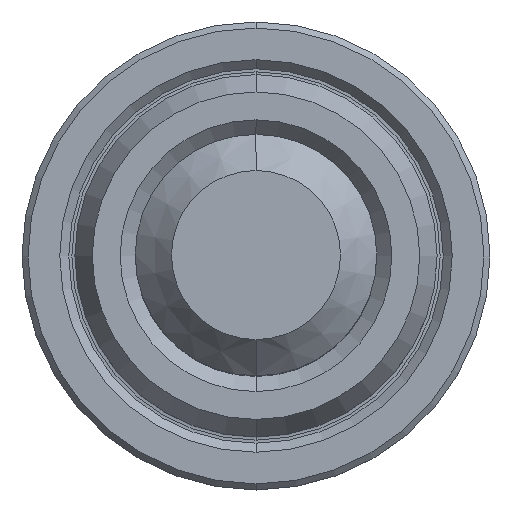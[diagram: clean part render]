
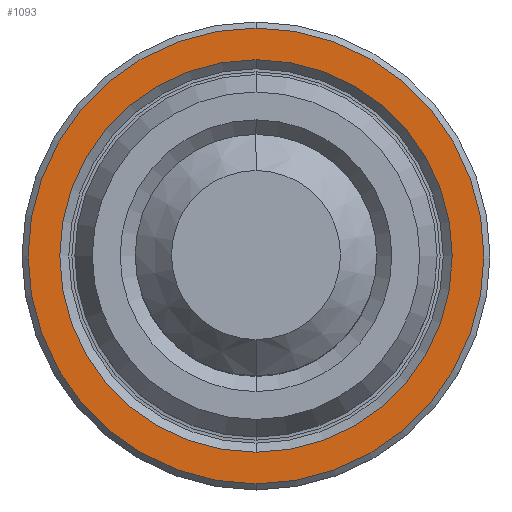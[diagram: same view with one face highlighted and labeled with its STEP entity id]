
A CAD part, top view. The second image highlights one B-rep face of the part: STEP entity #1093.
In plain terms, the highlighted planar face has unit normal (0, 0, 1).
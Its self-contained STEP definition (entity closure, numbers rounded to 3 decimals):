
#42 = EDGE_CURVE ( 'NONE', #1391, #1439, #488, .T. ) ;
#96 = DIRECTION ( 'NONE',  ( 0., -1., 0. ) ) ;
#120 = DIRECTION ( 'NONE',  ( 0., -1., 0. ) ) ;
#294 = ORIENTED_EDGE ( 'NONE', *, *, #845, .T. ) ;
#340 = CARTESIAN_POINT ( 'NONE',  ( 0., 0., 0. ) ) ;
#376 = ORIENTED_EDGE ( 'NONE', *, *, #42, .T. ) ;
#382 = DIRECTION ( 'NONE',  ( 0., 0., 1. ) ) ;
#488 = CIRCLE ( 'NONE', #1521, 7.55 ) ;
#514 = CARTESIAN_POINT ( 'NONE',  ( 0., 6.5, 0. ) ) ;
#516 = FACE_BOUND ( 'NONE', #1489, .T. ) ;
#534 = EDGE_CURVE ( 'NONE', #1439, #1391, #1195, .T. ) ;
#568 = DIRECTION ( 'NONE',  ( 0., 0., -1. ) ) ;
#731 = VERTEX_POINT ( 'NONE', #1538 ) ;
#789 = ORIENTED_EDGE ( 'NONE', *, *, #534, .T. ) ;
#845 = EDGE_CURVE ( 'NONE', #1540, #731, #1220, .T. ) ;
#847 = ORIENTED_EDGE ( 'NONE', *, *, #1566, .T. ) ;
#888 = CARTESIAN_POINT ( 'NONE',  ( 0., 0., 0. ) ) ;
#921 = AXIS2_PLACEMENT_3D ( 'NONE', #1418, #1541, #120 ) ;
#1093 = ADVANCED_FACE ( 'NONE', ( #516, #1239 ), #1265, .T. ) ;
#1119 = CARTESIAN_POINT ( 'NONE',  ( 0., 0., 0. ) ) ;
#1195 = CIRCLE ( 'NONE', #921, 7.55 ) ;
#1220 = CIRCLE ( 'NONE', #1307, 6.5 ) ;
#1238 = DIRECTION ( 'NONE',  ( 0., 1., 0. ) ) ;
#1239 = FACE_OUTER_BOUND ( 'NONE', #1413, .T. ) ;
#1265 = PLANE ( 'NONE',  #1402 ) ;
#1307 = AXIS2_PLACEMENT_3D ( 'NONE', #888, #568, #1321 ) ;
#1321 = DIRECTION ( 'NONE',  ( 0., 1., 0. ) ) ;
#1355 = CARTESIAN_POINT ( 'NONE',  ( 0., -7.55, 0. ) ) ;
#1391 = VERTEX_POINT ( 'NONE', #1634 ) ;
#1393 = DIRECTION ( 'NONE',  ( 0., 0., 1. ) ) ;
#1402 = AXIS2_PLACEMENT_3D ( 'NONE', #1553, #382, #1544 ) ;
#1405 = AXIS2_PLACEMENT_3D ( 'NONE', #1119, #1697, #1238 ) ;
#1413 = EDGE_LOOP ( 'NONE', ( #376, #789 ) ) ;
#1418 = CARTESIAN_POINT ( 'NONE',  ( 0., 0., 0. ) ) ;
#1439 = VERTEX_POINT ( 'NONE', #1355 ) ;
#1489 = EDGE_LOOP ( 'NONE', ( #847, #294 ) ) ;
#1521 = AXIS2_PLACEMENT_3D ( 'NONE', #340, #1393, #96 ) ;
#1538 = CARTESIAN_POINT ( 'NONE',  ( 0., -6.5, 0. ) ) ;
#1540 = VERTEX_POINT ( 'NONE', #514 ) ;
#1541 = DIRECTION ( 'NONE',  ( 0., 0., 1. ) ) ;
#1544 = DIRECTION ( 'NONE',  ( 0., -1., 0. ) ) ;
#1553 = CARTESIAN_POINT ( 'NONE',  ( 6., 0., 0. ) ) ;
#1566 = EDGE_CURVE ( 'NONE', #731, #1540, #1823, .T. ) ;
#1634 = CARTESIAN_POINT ( 'NONE',  ( 0., 7.55, 0. ) ) ;
#1697 = DIRECTION ( 'NONE',  ( 0., 0., -1. ) ) ;
#1823 = CIRCLE ( 'NONE', #1405, 6.5 ) ;
